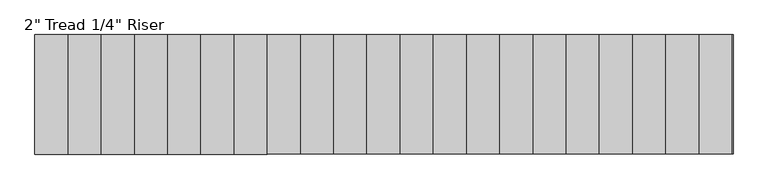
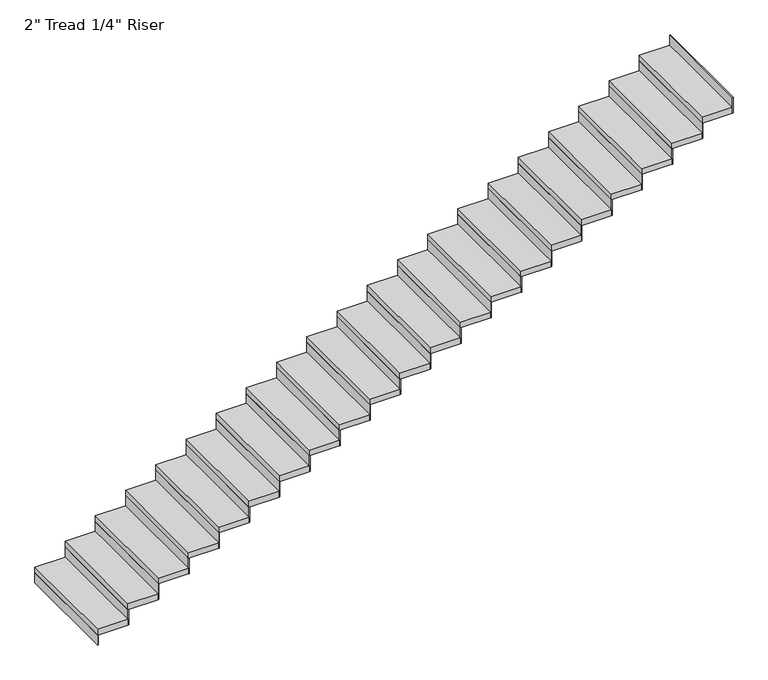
"""IFC4 building model written with IfcOpenShell, lengths in millimetres: stair flight geometry."""

from ifc_helpers import new_model, si_unit, frame, origin, origin_with_axes, place, context, project, spatial, polyline, outline, extrude, source, transform, mapped, element, save


def stair_flight_1a475ef1(model_context):
    return source(origin(), model_context, "Body", "SweptSolid", [
        extrude(outline(polyline([(10185.2072927, 15846.0395941), (10178.8572927, 15846.0395941), (10178.8572927, 16760.4395941), (10185.2072927, 16760.4395941), (10185.2072927, 15846.0395941)])), origin_with_axes(), (0.0, 0.0, 1.0), 87.7454545),
        extrude(outline(polyline([(10432.8572927, 16760.4395941), (10432.8572927, 15846.0395941), (10178.8572927, 15846.0395941), (10178.8572927, 16760.4395941), (10432.8572927, 16760.4395941)])), frame((0.0, 0.0, 87.7454545), z_axis=(0.0, 0.0, 1.0), x_axis=(1.0, 0.0, 0.0)), (0.0, 0.0, 1.0), 50.8),
        extrude(outline(polyline([(10439.2072927, 15846.0395941), (10432.8572927, 15846.0395941), (10432.8572927, 16760.4395941), (10439.2072927, 16760.4395941), (10439.2072927, 15846.0395941)])), frame((0.0, 0.0, 87.7454545), z_axis=(0.0, 0.0, 1.0), x_axis=(1.0, 0.0, 0.0)), (0.0, 0.0, 1.0), 138.5454545),
        extrude(outline(polyline([(10686.8572927, 16760.4395941), (10686.8572927, 15846.0395941), (10432.8572927, 15846.0395941), (10432.8572927, 16760.4395941), (10686.8572927, 16760.4395941)])), frame((0.0, 0.0, 226.2909091), z_axis=(0.0, 0.0, 1.0), x_axis=(1.0, 0.0, 0.0)), (0.0, 0.0, 1.0), 50.8),
        extrude(outline(polyline([(10693.2072927, 15846.0395941), (10686.8572927, 15846.0395941), (10686.8572927, 16760.4395941), (10693.2072927, 16760.4395941), (10693.2072927, 15846.0395941)])), frame((0.0, 0.0, 226.2909091), z_axis=(0.0, 0.0, 1.0), x_axis=(1.0, 0.0, 0.0)), (0.0, 0.0, 1.0), 138.5454545),
        extrude(outline(polyline([(10940.8572927, 16760.4395941), (10940.8572927, 15846.0395941), (10686.8572927, 15846.0395941), (10686.8572927, 16760.4395941), (10940.8572927, 16760.4395941)])), frame((0.0, 0.0, 364.8363636), z_axis=(0.0, 0.0, 1.0), x_axis=(1.0, 0.0, 0.0)), (0.0, 0.0, 1.0), 50.8),
        extrude(outline(polyline([(10947.2072927, 15846.0395941), (10940.8572927, 15846.0395941), (10940.8572927, 16760.4395941), (10947.2072927, 16760.4395941), (10947.2072927, 15846.0395941)])), frame((0.0, 0.0, 364.8363636), z_axis=(0.0, 0.0, 1.0), x_axis=(1.0, 0.0, 0.0)), (0.0, 0.0, 1.0), 138.5454545),
        extrude(outline(polyline([(11194.8572927, 16760.4395941), (11194.8572927, 15846.0395941), (10940.8572927, 15846.0395941), (10940.8572927, 16760.4395941), (11194.8572927, 16760.4395941)])), frame((0.0, 0.0, 503.3818182), z_axis=(0.0, 0.0, 1.0), x_axis=(1.0, 0.0, 0.0)), (0.0, 0.0, 1.0), 50.8),
        extrude(outline(polyline([(11201.2072927, 15846.0395941), (11194.8572927, 15846.0395941), (11194.8572927, 16760.4395941), (11201.2072927, 16760.4395941), (11201.2072927, 15846.0395941)])), frame((0.0, 0.0, 503.3818182), z_axis=(0.0, 0.0, 1.0), x_axis=(1.0, 0.0, 0.0)), (0.0, 0.0, 1.0), 138.5454545),
        extrude(outline(polyline([(11448.8572927, 16760.4395941), (11448.8572927, 15846.0395941), (11194.8572927, 15846.0395941), (11194.8572927, 16760.4395941), (11448.8572927, 16760.4395941)])), frame((0.0, 0.0, 641.9272727), z_axis=(0.0, 0.0, 1.0), x_axis=(1.0, 0.0, 0.0)), (0.0, 0.0, 1.0), 50.8),
        extrude(outline(polyline([(11455.2072927, 15846.0395941), (11448.8572927, 15846.0395941), (11448.8572927, 16760.4395941), (11455.2072927, 16760.4395941), (11455.2072927, 15846.0395941)])), frame((0.0, 0.0, 641.9272727), z_axis=(0.0, 0.0, 1.0), x_axis=(1.0, 0.0, 0.0)), (0.0, 0.0, 1.0), 138.5454545),
        extrude(outline(polyline([(11702.8572927, 16760.4395941), (11702.8572927, 15846.0395941), (11448.8572927, 15846.0395941), (11448.8572927, 16760.4395941), (11702.8572927, 16760.4395941)])), frame((0.0, 0.0, 780.4727273), z_axis=(0.0, 0.0, 1.0), x_axis=(1.0, 0.0, 0.0)), (0.0, 0.0, 1.0), 50.8),
        extrude(outline(polyline([(11709.2072927, 15846.0395941), (11702.8572927, 15846.0395941), (11702.8572927, 16760.4395941), (11709.2072927, 16760.4395941), (11709.2072927, 15846.0395941)])), frame((0.0, 0.0, 780.4727273), z_axis=(0.0, 0.0, 1.0), x_axis=(1.0, 0.0, 0.0)), (0.0, 0.0, 1.0), 138.5454545),
        extrude(outline(polyline([(11956.8572927, 16760.4395941), (11956.8572927, 15846.0395941), (11702.8572927, 15846.0395941), (11702.8572927, 16760.4395941), (11956.8572927, 16760.4395941)])), frame((0.0, 0.0, 919.0181818), z_axis=(0.0, 0.0, 1.0), x_axis=(1.0, 0.0, 0.0)), (0.0, 0.0, 1.0), 50.8),
        extrude(outline(polyline([(11963.2072927, 15846.0395941), (11956.8572927, 15846.0395941), (11956.8572927, 16760.4395941), (11963.2072927, 16760.4395941), (11963.2072927, 15846.0395941)])), frame((0.0, 0.0, 919.0181818), z_axis=(0.0, 0.0, 1.0), x_axis=(1.0, 0.0, 0.0)), (0.0, 0.0, 1.0), 138.5454545),
        extrude(outline(polyline([(12210.8572927, 16760.4395941), (12210.8572927, 15846.0395941), (11956.8572927, 15846.0395941), (11956.8572927, 16760.4395941), (12210.8572927, 16760.4395941)])), frame((0.0, 0.0, 1057.5636364), z_axis=(0.0, 0.0, 1.0), x_axis=(1.0, 0.0, 0.0)), (0.0, 0.0, 1.0), 50.8),
        extrude(outline(polyline([(12217.2072927, 15846.0395941), (12210.8572927, 15846.0395941), (12210.8572927, 16760.4395941), (12217.2072927, 16760.4395941), (12217.2072927, 15846.0395941)])), frame((0.0, 0.0, 1057.5636364), z_axis=(0.0, 0.0, 1.0), x_axis=(1.0, 0.0, 0.0)), (0.0, 0.0, 1.0), 138.5454545),
        extrude(outline(polyline([(12464.8572927, 16760.4395941), (12464.8572927, 15846.0395941), (12210.8572927, 15846.0395941), (12210.8572927, 16760.4395941), (12464.8572927, 16760.4395941)])), frame((0.0, 0.0, 1196.1090909), z_axis=(0.0, 0.0, 1.0), x_axis=(1.0, 0.0, 0.0)), (0.0, 0.0, 1.0), 50.8),
        extrude(outline(polyline([(12471.2072927, 15846.0395941), (12464.8572927, 15846.0395941), (12464.8572927, 16760.4395941), (12471.2072927, 16760.4395941), (12471.2072927, 15846.0395941)])), frame((0.0, 0.0, 1196.1090909), z_axis=(0.0, 0.0, 1.0), x_axis=(1.0, 0.0, 0.0)), (0.0, 0.0, 1.0), 138.5454545),
        extrude(outline(polyline([(12718.8572927, 16760.4395941), (12718.8572927, 15846.0395941), (12464.8572927, 15846.0395941), (12464.8572927, 16760.4395941), (12718.8572927, 16760.4395941)])), frame((0.0, 0.0, 1334.6545455), z_axis=(0.0, 0.0, 1.0), x_axis=(1.0, 0.0, 0.0)), (0.0, 0.0, 1.0), 50.8),
        extrude(outline(polyline([(12725.2072927, 15846.0395941), (12718.8572927, 15846.0395941), (12718.8572927, 16760.4395941), (12725.2072927, 16760.4395941), (12725.2072927, 15846.0395941)])), frame((0.0, 0.0, 1334.6545455), z_axis=(0.0, 0.0, 1.0), x_axis=(1.0, 0.0, 0.0)), (0.0, 0.0, 1.0), 138.5454545),
        extrude(outline(polyline([(12972.8572927, 16760.4395941), (12972.8572927, 15846.0395941), (12718.8572927, 15846.0395941), (12718.8572927, 16760.4395941), (12972.8572927, 16760.4395941)])), frame((0.0, 0.0, 1473.2), z_axis=(0.0, 0.0, 1.0), x_axis=(1.0, 0.0, 0.0)), (0.0, 0.0, 1.0), 50.8),
        extrude(outline(polyline([(12979.2072927, 15846.0395941), (12972.8572927, 15846.0395941), (12972.8572927, 16760.4395941), (12979.2072927, 16760.4395941), (12979.2072927, 15846.0395941)])), frame((0.0, 0.0, 1473.2), z_axis=(0.0, 0.0, 1.0), x_axis=(1.0, 0.0, 0.0)), (0.0, 0.0, 1.0), 138.5454545),
        extrude(outline(polyline([(13226.8572927, 16760.4395941), (13226.8572927, 15846.0395941), (12972.8572927, 15846.0395941), (12972.8572927, 16760.4395941), (13226.8572927, 16760.4395941)])), frame((0.0, 0.0, 1611.7454545), z_axis=(0.0, 0.0, 1.0), x_axis=(1.0, 0.0, 0.0)), (0.0, 0.0, 1.0), 50.8),
        extrude(outline(polyline([(13233.2072927, 15846.0395941), (13226.8572927, 15846.0395941), (13226.8572927, 16760.4395941), (13233.2072927, 16760.4395941), (13233.2072927, 15846.0395941)])), frame((0.0, 0.0, 1611.7454545), z_axis=(0.0, 0.0, 1.0), x_axis=(1.0, 0.0, 0.0)), (0.0, 0.0, 1.0), 138.5454545),
        extrude(outline(polyline([(13480.8572927, 16760.4395941), (13480.8572927, 15846.0395941), (13226.8572927, 15846.0395941), (13226.8572927, 16760.4395941), (13480.8572927, 16760.4395941)])), frame((0.0, 0.0, 1750.2909091), z_axis=(0.0, 0.0, 1.0), x_axis=(1.0, 0.0, 0.0)), (0.0, 0.0, 1.0), 50.8),
        extrude(outline(polyline([(13487.2072927, 15846.0395941), (13480.8572927, 15846.0395941), (13480.8572927, 16760.4395941), (13487.2072927, 16760.4395941), (13487.2072927, 15846.0395941)])), frame((0.0, 0.0, 1750.2909091), z_axis=(0.0, 0.0, 1.0), x_axis=(1.0, 0.0, 0.0)), (0.0, 0.0, 1.0), 138.5454545),
        extrude(outline(polyline([(13734.8572927, 16760.4395941), (13734.8572927, 15846.0395941), (13480.8572927, 15846.0395941), (13480.8572927, 16760.4395941), (13734.8572927, 16760.4395941)])), frame((0.0, 0.0, 1888.8363636), z_axis=(0.0, 0.0, 1.0), x_axis=(1.0, 0.0, 0.0)), (0.0, 0.0, 1.0), 50.8),
        extrude(outline(polyline([(13741.2072927, 15846.0395941), (13734.8572927, 15846.0395941), (13734.8572927, 16760.4395941), (13741.2072927, 16760.4395941), (13741.2072927, 15846.0395941)])), frame((0.0, 0.0, 1888.8363636), z_axis=(0.0, 0.0, 1.0), x_axis=(1.0, 0.0, 0.0)), (0.0, 0.0, 1.0), 138.5454545),
        extrude(outline(polyline([(13988.8572927, 16760.4395941), (13988.8572927, 15846.0395941), (13734.8572927, 15846.0395941), (13734.8572927, 16760.4395941), (13988.8572927, 16760.4395941)])), frame((0.0, 0.0, 2027.3818182), z_axis=(0.0, 0.0, 1.0), x_axis=(1.0, 0.0, 0.0)), (0.0, 0.0, 1.0), 50.8),
        extrude(outline(polyline([(13995.2072927, 15846.0395941), (13988.8572927, 15846.0395941), (13988.8572927, 16760.4395941), (13995.2072927, 16760.4395941), (13995.2072927, 15846.0395941)])), frame((0.0, 0.0, 2027.3818182), z_axis=(0.0, 0.0, 1.0), x_axis=(1.0, 0.0, 0.0)), (0.0, 0.0, 1.0), 138.5454545),
        extrude(outline(polyline([(14242.8572927, 16760.4395941), (14242.8572927, 15846.0395941), (13988.8572927, 15846.0395941), (13988.8572927, 16760.4395941), (14242.8572927, 16760.4395941)])), frame((0.0, 0.0, 2165.9272727), z_axis=(0.0, 0.0, 1.0), x_axis=(1.0, 0.0, 0.0)), (0.0, 0.0, 1.0), 50.8),
        extrude(outline(polyline([(14249.2072927, 15846.0395941), (14242.8572927, 15846.0395941), (14242.8572927, 16760.4395941), (14249.2072927, 16760.4395941), (14249.2072927, 15846.0395941)])), frame((0.0, 0.0, 2165.9272727), z_axis=(0.0, 0.0, 1.0), x_axis=(1.0, 0.0, 0.0)), (0.0, 0.0, 1.0), 138.5454545),
        extrude(outline(polyline([(14496.8572927, 16760.4395941), (14496.8572927, 15846.0395941), (14242.8572927, 15846.0395941), (14242.8572927, 16760.4395941), (14496.8572927, 16760.4395941)])), frame((0.0, 0.0, 2304.4727273), z_axis=(0.0, 0.0, 1.0), x_axis=(1.0, 0.0, 0.0)), (0.0, 0.0, 1.0), 50.8),
        extrude(outline(polyline([(14503.2072927, 15846.0395941), (14496.8572927, 15846.0395941), (14496.8572927, 16760.4395941), (14503.2072927, 16760.4395941), (14503.2072927, 15846.0395941)])), frame((0.0, 0.0, 2304.4727273), z_axis=(0.0, 0.0, 1.0), x_axis=(1.0, 0.0, 0.0)), (0.0, 0.0, 1.0), 138.5454545),
        extrude(outline(polyline([(14750.8572927, 16760.4395941), (14750.8572927, 15846.0395941), (14496.8572927, 15846.0395941), (14496.8572927, 16760.4395941), (14750.8572927, 16760.4395941)])), frame((0.0, 0.0, 2443.0181818), z_axis=(0.0, 0.0, 1.0), x_axis=(1.0, 0.0, 0.0)), (0.0, 0.0, 1.0), 50.8),
        extrude(outline(polyline([(14757.2072927, 15846.0395941), (14750.8572927, 15846.0395941), (14750.8572927, 16760.4395941), (14757.2072927, 16760.4395941), (14757.2072927, 15846.0395941)])), frame((0.0, 0.0, 2443.0181818), z_axis=(0.0, 0.0, 1.0), x_axis=(1.0, 0.0, 0.0)), (0.0, 0.0, 1.0), 138.5454545),
        extrude(outline(polyline([(15004.8572927, 16760.4395941), (15004.8572927, 15846.0395941), (14750.8572927, 15846.0395941), (14750.8572927, 16760.4395941), (15004.8572927, 16760.4395941)])), frame((0.0, 0.0, 2581.5636364), z_axis=(0.0, 0.0, 1.0), x_axis=(1.0, 0.0, 0.0)), (0.0, 0.0, 1.0), 50.8),
        extrude(outline(polyline([(15011.2072927, 15846.0395941), (15004.8572927, 15846.0395941), (15004.8572927, 16760.4395941), (15011.2072927, 16760.4395941), (15011.2072927, 15846.0395941)])), frame((0.0, 0.0, 2581.5636364), z_axis=(0.0, 0.0, 1.0), x_axis=(1.0, 0.0, 0.0)), (0.0, 0.0, 1.0), 138.5454545),
        extrude(outline(polyline([(15258.8572927, 16760.4395941), (15258.8572927, 15846.0395941), (15004.8572927, 15846.0395941), (15004.8572927, 16760.4395941), (15258.8572927, 16760.4395941)])), frame((0.0, 0.0, 2720.1090909), z_axis=(0.0, 0.0, 1.0), x_axis=(1.0, 0.0, 0.0)), (0.0, 0.0, 1.0), 50.8),
        extrude(outline(polyline([(15265.2072927, 15846.0395941), (15258.8572927, 15846.0395941), (15258.8572927, 16760.4395941), (15265.2072927, 16760.4395941), (15265.2072927, 15846.0395941)])), frame((0.0, 0.0, 2720.1090909), z_axis=(0.0, 0.0, 1.0), x_axis=(1.0, 0.0, 0.0)), (0.0, 0.0, 1.0), 138.5454545),
        extrude(outline(polyline([(15519.2072927, 15846.0395941), (15512.8572927, 15846.0395941), (15512.8572927, 16760.4395941), (15519.2072927, 16760.4395941), (15519.2072927, 15846.0395941)])), frame((0.0, 0.0, 2858.6545455), z_axis=(0.0, 0.0, 1.0), x_axis=(1.0, 0.0, 0.0)), (0.0, 0.0, 1.0), 138.5454545),
        extrude(outline(polyline([(15512.8572927, 16760.4395941), (15512.8572927, 15846.0395941), (15258.8572927, 15846.0395941), (15258.8572927, 16760.4395941), (15512.8572927, 16760.4395941)])), frame((0.0, 0.0, 2858.6545455), z_axis=(0.0, 0.0, 1.0), x_axis=(1.0, 0.0, 0.0)), (0.0, 0.0, 1.0), 50.8),
    ])


if __name__ == "__main__":
    model = new_model("IFC4")
    model_context = context("Model", 3, world=origin())
    ifc_project = project(units=[si_unit("LENGTHUNIT", "METRE", prefix="MILLI")], contexts=[model_context])
    site = spatial("IfcSite", under=ifc_project)
    building = spatial("IfcBuilding", under=site)
    placement = place(None, origin())
    stair_flight_shape = stair_flight_1a475ef1(model_context)
    element("IfcStairFlight", 1, ObjectType="2\" Tread 1/4\" Riser", at=placement, inside=building, context=model_context, shape_type="MappedRepresentation", body=[
        mapped(stair_flight_shape, transform((0.0, 0.0, 0.0), x_axis=(1.0, 0.0, 0.0), y_axis=(0.0, 1.0, 0.0), z_axis=(0.0, 0.0, 1.0))),
    ])
    save(model, "model.ifc")
